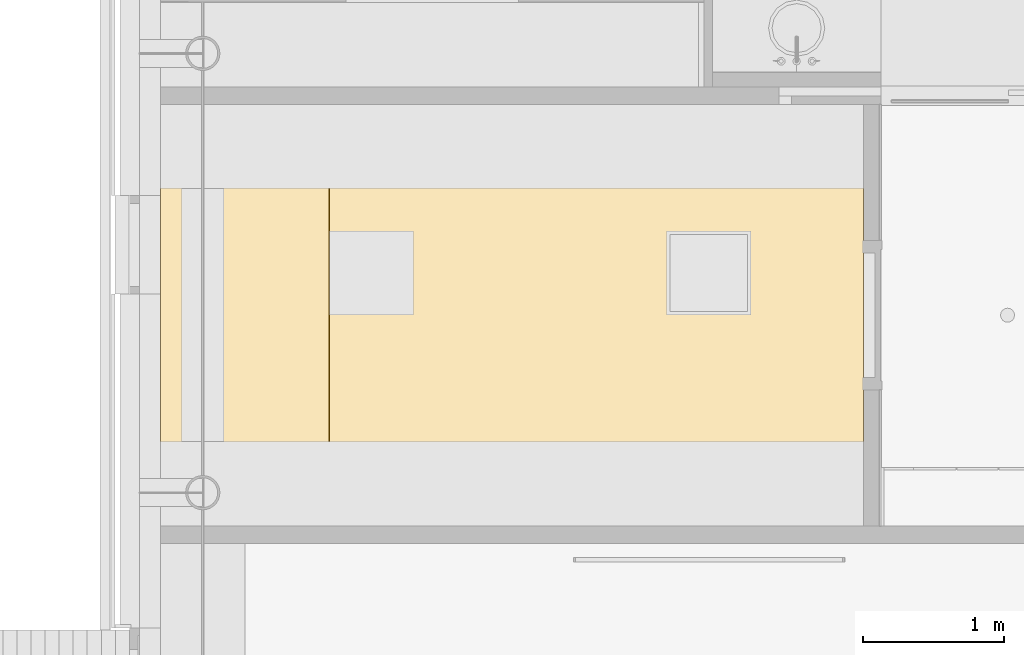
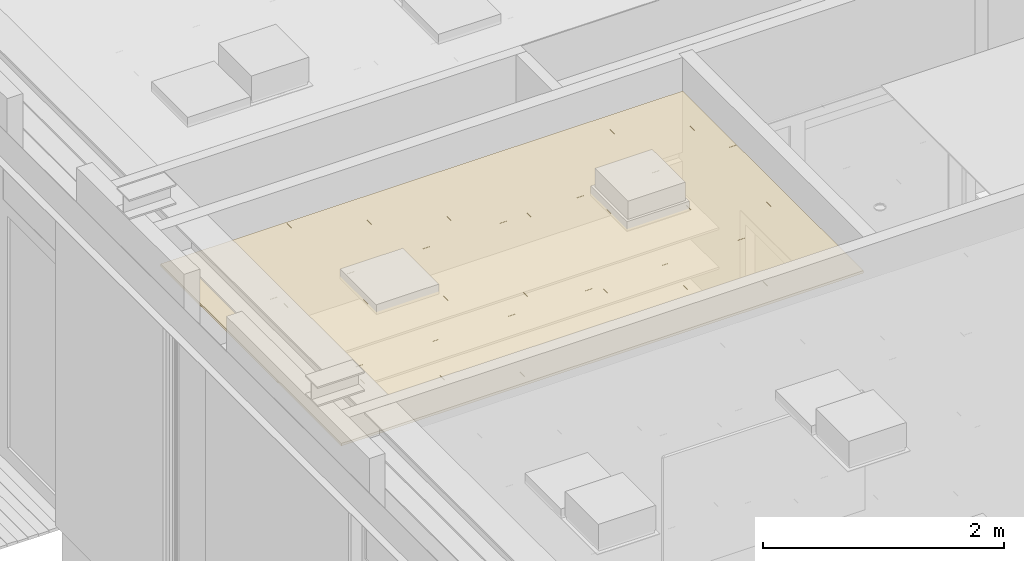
# One storey, part 153 of 347: 1 covering.
"""IFC2X3 building model written with IfcOpenShell, lengths in millimetres."""

from ifc_helpers import new_model, entity, si_unit, converted_unit, derived_unit, money_unit, direction, frame, origin_with_axes, place, context, subcontext, project, spatial, faceted_brep, source, transform, mapped, type_object, type_shapes, element, save


model = new_model("IFC2X3")

# Units and contexts
model_context = context("Model", 3, precision=0.01, world=origin_with_axes(), true_north=direction((0.0, 1.0)))
plan_context = context("Plan", 3, precision=0.01, world=origin_with_axes(), true_north=direction((0.0, 1.0)))
body_context = subcontext(model_context, "Body", "Model", "MODEL_VIEW")
ifc_project = project(units=[si_unit("LENGTHUNIT", "METRE", prefix="MILLI"), si_unit("AREAUNIT", "SQUARE_METRE"), si_unit("VOLUMEUNIT", "CUBIC_METRE"), converted_unit("PLANEANGLEUNIT", "DEGREE", entity("IfcPlaneAngleMeasure", 0.0174532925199), si_unit("PLANEANGLEUNIT", "RADIAN"), dimensions=[0, 0, 0, 0, 0, 0, 0]), money_unit("EUR"), converted_unit("TIMEUNIT", "Year", entity("IfcTimeMeasure", 31556926.0), si_unit("TIMEUNIT", "SECOND"), dimensions=[0, 0, 1, 0, 0, 0, 0]), si_unit("MASSUNIT", "GRAM", prefix="KILO"), si_unit("THERMODYNAMICTEMPERATUREUNIT", "DEGREE_CELSIUS"), si_unit("LUMINOUSINTENSITYUNIT", "LUMEN"), si_unit("ENERGYUNIT", "JOULE", prefix="MEGA"), derived_unit("THERMALCONDUCTANCEUNIT", [(si_unit("POWERUNIT", "WATT"), 1), (si_unit("LENGTHUNIT", "METRE"), -1), (si_unit("THERMODYNAMICTEMPERATUREUNIT", "KELVIN"), -1)]), derived_unit("SPECIFICHEATCAPACITYUNIT", [(si_unit("ENERGYUNIT", "JOULE"), 1), (si_unit("MASSUNIT", "GRAM", prefix="KILO"), -1), (si_unit("THERMODYNAMICTEMPERATUREUNIT", "KELVIN"), -1)]), derived_unit("MASSDENSITYUNIT", [(si_unit("MASSUNIT", "GRAM", prefix="KILO"), 1), (si_unit("VOLUMEUNIT", "CUBIC_METRE"), -1)])], contexts=[model_context, plan_context])

# Site, building, storey
site_placement = place(None, origin_with_axes())
site = spatial("IfcSite", under=ifc_project, at=site_placement, Name="Site", CompositionType="ELEMENT")
building_placement = place(site_placement, origin_with_axes())
building = spatial("IfcBuilding", under=site, at=building_placement, Name="Naam gebouw", CompositionType="ELEMENT")
storey_placement = place(building_placement, origin_with_axes())
storey = spatial("IfcBuildingStorey", under=building, at=storey_placement, Name="begane grond", CompositionType="ELEMENT", Elevation=0.0)

# Covering
covering_type = type_object("IfcCoveringType", Name="Ceiling Editor INT_v2.01", PredefinedType="CEILING")
shared_shape = source(origin_with_axes(), body_context, "Body", "Brep", [
    faceted_brep([(0.100000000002, 0.0, 20.0), (599.9, 0.0, 20.0), (599.9, 899.9, 20.0), (0.100000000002, 899.9, 20.0), (0.100000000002, 0.0, 0.0), (599.9, 0.0, 0.0), (599.9, 899.9, 0.0), (0.100000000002, 899.9, 0.0)], [[[0, 1, 2, 3]], [[1, 0, 4, 5]], [[1, 5, 6, 2]], [[2, 6, 7, 3]], [[4, 0, 3, 7]], [[5, 4, 7, 6]]]),
    faceted_brep([(599.9, 900.1, 20.0), (599.9, 900.1, 0.0), (599.9, 2099.9, 0.0), (599.9, 2099.9, 20.0), (0.100000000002, 900.1, 20.0), (0.100000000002, 900.1, 0.0), (0.100000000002, 2099.9, 0.0), (0.100000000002, 2099.9, 20.0)], [[[0, 1, 2, 3]], [[4, 5, 1, 0]], [[2, 1, 5, 6]], [[3, 2, 6, 7]], [[4, 0, 3, 7]], [[7, 6, 5, 4]]]),
    faceted_brep([(599.9, 3000.0, 0.0), (599.9, 3000.0, 20.0), (599.9, 2100.1, 20.0), (599.9, 2100.1, 0.0), (0.100000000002, 3000.0, 0.0), (0.100000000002, 3000.0, 20.0), (0.100000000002, 2100.1, 20.0), (0.100000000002, 2100.1, 0.0)], [[[0, 1, 2, 3]], [[1, 0, 4, 5]], [[1, 5, 6, 2]], [[6, 7, 3, 2]], [[4, 0, 3, 7]], [[5, 4, 7, 6]]]),
    faceted_brep([(600.1, 0.0, 20.0), (1199.9, 0.0, 20.0), (1199.9, 899.9, 20.0), (600.1, 899.9, 20.0), (600.1, 0.0, 0.0), (1199.9, 0.0, 0.0), (1199.9, 899.9, 0.0), (600.1, 899.9, 0.0)], [[[0, 1, 2, 3]], [[1, 0, 4, 5]], [[1, 5, 6, 2]], [[2, 6, 7, 3]], [[4, 0, 3, 7]], [[5, 4, 7, 6]]]),
    faceted_brep([(1199.9, 900.1, 20.0), (1199.9, 900.1, 0.0), (1199.9, 2099.9, 0.0), (1199.9, 2099.9, 20.0), (600.1, 900.1, 20.0), (600.1, 900.1, 0.0), (600.1, 2099.9, 0.0), (600.1, 2099.9, 20.0)], [[[0, 1, 2, 3]], [[4, 5, 1, 0]], [[2, 1, 5, 6]], [[3, 2, 6, 7]], [[4, 0, 3, 7]], [[7, 6, 5, 4]]]),
    faceted_brep([(1199.9, 3000.0, 0.0), (1199.9, 3000.0, 20.0), (1199.9, 2100.1, 20.0), (1199.9, 2100.1, 0.0), (600.1, 3000.0, 0.0), (600.1, 3000.0, 20.0), (600.1, 2100.1, 20.0), (600.1, 2100.1, 0.0)], [[[0, 1, 2, 3]], [[1, 0, 4, 5]], [[1, 5, 6, 2]], [[6, 7, 3, 2]], [[4, 0, 3, 7]], [[5, 4, 7, 6]]]),
    faceted_brep([(1249.99999795, 0.0, 20.0), (1799.9, 0.0, 20.0), (1799.9, 899.9, 20.0), (1200.1, 899.9, 20.0), (1200.1, 0.0, 20.0), (1249.99999795, 0.0, 0.0), (1799.9, 0.0, 0.0), (1799.9, 899.9, 0.0), (1200.1, 899.9, 0.0), (1200.1, 0.0, 0.0)], [[[0, 1, 2, 3, 4]], [[1, 0, 5, 6]], [[1, 6, 7, 2]], [[2, 7, 8, 3]], [[9, 4, 3, 8]], [[0, 4, 9, 5]], [[5, 9, 8, 7, 6]]]),
    faceted_brep([(1799.9, 900.1, 20.0), (1799.9, 900.1, 0.0), (1799.9, 2099.9, 0.0), (1799.9, 2099.9, 20.0), (1200.1, 900.1, 20.0), (1200.1, 900.1, 0.0), (1200.1, 2099.9, 0.0), (1200.1, 2099.9, 20.0)], [[[0, 1, 2, 3]], [[4, 5, 1, 0]], [[2, 1, 5, 6]], [[3, 2, 6, 7]], [[4, 0, 3, 7]], [[7, 6, 5, 4]]]),
    faceted_brep([(1799.9, 3000.0, 0.0), (1799.9, 3000.0, 20.0), (1799.9, 2100.1, 20.0), (1799.9, 2100.1, 0.0), (1249.99999795, 3000.0, 0.0), (1249.99999795, 3000.0, 20.0), (1200.1, 3000.0, 20.0), (1200.1, 2100.1, 20.0), (1200.1, 2100.1, 0.0), (1200.1, 3000.0, 0.0)], [[[0, 1, 2, 3]], [[1, 0, 4, 5]], [[5, 6, 7, 2, 1]], [[7, 8, 3, 2]], [[4, 0, 3, 8, 9]], [[6, 5, 4, 9]], [[6, 9, 8, 7]]]),
    faceted_brep([(1800.1, 0.0, 20.0), (2399.9, 0.0, 20.0), (2399.9, 899.9, 20.0), (1800.1, 899.9, 20.0), (1800.1, 0.0, 0.0), (2399.9, 0.0, 0.0), (2399.9, 899.9, 0.0), (1800.1, 899.9, 0.0)], [[[0, 1, 2, 3]], [[1, 0, 4, 5]], [[1, 5, 6, 2]], [[2, 6, 7, 3]], [[4, 0, 3, 7]], [[5, 4, 7, 6]]]),
    faceted_brep([(2399.9, 900.1, 20.0), (2399.9, 900.1, 0.0), (2399.9, 2099.9, 0.0), (2399.9, 2099.9, 20.0), (1800.1, 900.1, 20.0), (1800.1, 900.1, 0.0), (1800.1, 2099.9, 0.0), (1800.1, 2099.9, 20.0)], [[[0, 1, 2, 3]], [[4, 5, 1, 0]], [[2, 1, 5, 6]], [[3, 2, 6, 7]], [[4, 0, 3, 7]], [[7, 6, 5, 4]]]),
    faceted_brep([(2399.9, 3000.0, 0.0), (2399.9, 3000.0, 20.0), (2399.9, 2100.1, 20.0), (2399.9, 2100.1, 0.0), (1800.1, 3000.0, 0.0), (1800.1, 3000.0, 20.0), (1800.1, 2100.1, 20.0), (1800.1, 2100.1, 0.0)], [[[0, 1, 2, 3]], [[1, 0, 4, 5]], [[1, 5, 6, 2]], [[6, 7, 3, 2]], [[4, 0, 3, 7]], [[5, 4, 7, 6]]]),
    faceted_brep([(2499.9999959, 0.0, 20.0), (2999.9, 0.0, 20.0), (2999.9, 899.9, 20.0), (2400.1, 899.9, 20.0), (2400.1, 0.0, 20.0), (2499.9999959, 0.0, 0.0), (2999.9, 0.0, 0.0), (2999.9, 899.9, 0.0), (2400.1, 899.9, 0.0), (2400.1, 0.0, 0.0)], [[[0, 1, 2, 3, 4]], [[1, 0, 5, 6]], [[1, 6, 7, 2]], [[2, 7, 8, 3]], [[9, 4, 3, 8]], [[0, 4, 9, 5]], [[5, 9, 8, 7, 6]]]),
    faceted_brep([(2999.9, 900.1, 20.0), (2999.9, 900.1, 0.0), (2999.9, 2099.9, 0.0), (2999.9, 2099.9, 20.0), (2400.1, 900.1, 20.0), (2400.1, 900.1, 0.0), (2400.1, 2099.9, 0.0), (2400.1, 2099.9, 20.0)], [[[0, 1, 2, 3]], [[4, 5, 1, 0]], [[2, 1, 5, 6]], [[3, 2, 6, 7]], [[4, 0, 3, 7]], [[7, 6, 5, 4]]]),
    faceted_brep([(2999.9, 3000.0, 0.0), (2999.9, 3000.0, 20.0), (2999.9, 2100.1, 20.0), (2999.9, 2100.1, 0.0), (2499.9999959, 3000.0, 0.0), (2499.9999959, 3000.0, 20.0), (2400.1, 3000.0, 20.0), (2400.1, 2100.1, 20.0), (2400.1, 2100.1, 0.0), (2400.1, 3000.0, 0.0)], [[[0, 1, 2, 3]], [[1, 0, 4, 5]], [[5, 6, 7, 2, 1]], [[7, 8, 3, 2]], [[4, 0, 3, 8, 9]], [[6, 5, 4, 9]], [[6, 9, 8, 7]]]),
    faceted_brep([(3000.1, 0.0, 20.0), (3599.9, 0.0, 20.0), (3599.9, 899.9, 20.0), (3000.1, 899.9, 20.0), (3000.1, 0.0, 0.0), (3599.9, 0.0, 0.0), (3599.9, 899.9, 0.0), (3000.1, 899.9, 0.0)], [[[0, 1, 2, 3]], [[1, 0, 4, 5]], [[1, 5, 6, 2]], [[2, 6, 7, 3]], [[4, 0, 3, 7]], [[5, 4, 7, 6]]]),
    faceted_brep([(3599.9, 900.1, 20.0), (3599.9, 900.1, 0.0), (3599.9, 2099.9, 0.0), (3599.9, 2099.9, 20.0), (3000.1, 900.1, 20.0), (3000.1, 900.1, 0.0), (3000.1, 2099.9, 0.0), (3000.1, 2099.9, 20.0)], [[[0, 1, 2, 3]], [[4, 5, 1, 0]], [[2, 1, 5, 6]], [[3, 2, 6, 7]], [[4, 0, 3, 7]], [[7, 6, 5, 4]]]),
    faceted_brep([(3599.9, 3000.0, 0.0), (3599.9, 3000.0, 20.0), (3599.9, 2100.1, 20.0), (3599.9, 2100.1, 0.0), (3000.1, 3000.0, 0.0), (3000.1, 3000.0, 20.0), (3000.1, 2100.1, 20.0), (3000.1, 2100.1, 0.0)], [[[0, 1, 2, 3]], [[1, 0, 4, 5]], [[1, 5, 6, 2]], [[6, 7, 3, 2]], [[4, 0, 3, 7]], [[5, 4, 7, 6]]]),
    faceted_brep([(3749.99999385, 0.0, 20.0), (4199.9, 0.0, 20.0), (4199.9, 899.9, 20.0), (3600.1, 899.9, 20.0), (3600.1, 0.0, 20.0), (3749.99999385, 0.0, 0.0), (4199.9, 0.0, 0.0), (4199.9, 899.9, 0.0), (3600.1, 899.9, 0.0), (3600.1, 0.0, 0.0)], [[[0, 1, 2, 3, 4]], [[1, 0, 5, 6]], [[1, 6, 7, 2]], [[2, 7, 8, 3]], [[9, 4, 3, 8]], [[0, 4, 9, 5]], [[5, 9, 8, 7, 6]]]),
    faceted_brep([(4199.9, 900.1, 20.0), (4199.9, 900.1, 0.0), (4199.9, 2099.9, 0.0), (4199.9, 2099.9, 20.0), (3600.1, 900.1, 20.0), (3600.1, 900.1, 0.0), (3600.1, 2099.9, 0.0), (3600.1, 2099.9, 20.0)], [[[0, 1, 2, 3]], [[4, 5, 1, 0]], [[2, 1, 5, 6]], [[3, 2, 6, 7]], [[4, 0, 3, 7]], [[7, 6, 5, 4]]]),
    faceted_brep([(4199.9, 3000.0, 0.0), (4199.9, 3000.0, 20.0), (4199.9, 2100.1, 20.0), (4199.9, 2100.1, 0.0), (3749.99999385, 3000.0, 0.0), (3749.99999385, 3000.0, 20.0), (3600.1, 3000.0, 20.0), (3600.1, 2100.1, 20.0), (3600.1, 2100.1, 0.0), (3600.1, 3000.0, 0.0)], [[[0, 1, 2, 3]], [[1, 0, 4, 5]], [[5, 6, 7, 2, 1]], [[7, 8, 3, 2]], [[4, 0, 3, 8, 9]], [[6, 5, 4, 9]], [[6, 9, 8, 7]]]),
    faceted_brep([(4200.1, 0.0, 20.0), (4799.9, 0.0, 20.0), (4799.9, 899.9, 20.0), (4200.1, 899.9, 20.0), (4200.1, 0.0, 0.0), (4799.9, 0.0, 0.0), (4799.9, 899.9, 0.0), (4200.1, 899.9, 0.0)], [[[0, 1, 2, 3]], [[1, 0, 4, 5]], [[1, 5, 6, 2]], [[2, 6, 7, 3]], [[4, 0, 3, 7]], [[5, 4, 7, 6]]]),
    faceted_brep([(4799.9, 900.1, 20.0), (4799.9, 900.1, 0.0), (4799.9, 2099.9, 0.0), (4799.9, 2099.9, 20.0), (4200.1, 900.1, 20.0), (4200.1, 900.1, 0.0), (4200.1, 2099.9, 0.0), (4200.1, 2099.9, 20.0)], [[[0, 1, 2, 3]], [[4, 5, 1, 0]], [[2, 1, 5, 6]], [[3, 2, 6, 7]], [[4, 0, 3, 7]], [[7, 6, 5, 4]]]),
    faceted_brep([(4799.9, 3000.0, 0.0), (4799.9, 3000.0, 20.0), (4799.9, 2100.1, 20.0), (4799.9, 2100.1, 0.0), (4200.1, 3000.0, 0.0), (4200.1, 3000.0, 20.0), (4200.1, 2100.1, 20.0), (4200.1, 2100.1, 0.0)], [[[0, 1, 2, 3]], [[1, 0, 4, 5]], [[1, 5, 6, 2]], [[6, 7, 3, 2]], [[4, 0, 3, 7]], [[5, 4, 7, 6]]]),
    faceted_brep([(4999.9999918, 750.0, 20.0), (4999.9999918, 899.9, 20.0), (4800.1, 899.9, 20.0), (4800.1, 0.0, 20.0), (4999.9999918, 0.0, 20.0), (4999.9999918, 750.0, 0.0), (4999.9999918, 899.9, 0.0), (4800.1, 899.9, 0.0), (4800.1, 0.0, 0.0), (4999.9999918, 0.0, 0.0)], [[[0, 1, 2, 3, 4]], [[1, 0, 5, 6]], [[1, 6, 7, 2]], [[8, 3, 2, 7]], [[4, 3, 8, 9]], [[0, 4, 9, 5]], [[9, 8, 7, 6, 5]]]),
    faceted_brep([(4999.9999918, 1500.0, 20.0), (4999.9999918, 2099.9, 20.0), (4800.1, 2099.9, 20.0), (4800.1, 900.1, 20.0), (4999.9999918, 900.1, 20.0), (4999.9999918, 1500.0, 0.0), (4999.9999918, 2099.9, 0.0), (4800.1, 2099.9, 0.0), (4800.1, 900.1, 0.0), (4999.9999918, 900.1, 0.0)], [[[0, 1, 2, 3, 4]], [[1, 0, 5, 6]], [[1, 6, 7, 2]], [[2, 7, 8, 3]], [[9, 4, 3, 8]], [[0, 4, 9, 5]], [[5, 9, 8, 7, 6]]]),
    faceted_brep([(4999.9999918, 2250.0, 20.0), (4999.9999918, 3000.0, 20.0), (4800.1, 3000.0, 20.0), (4800.1, 2100.1, 20.0), (4999.9999918, 2100.1, 20.0), (4999.9999918, 2250.0, 0.0), (4999.9999918, 3000.0, 0.0), (4800.1, 3000.0, 0.0), (4800.1, 2100.1, 0.0), (4999.9999918, 2100.1, 0.0)], [[[0, 1, 2, 3, 4]], [[1, 0, 5, 6]], [[2, 1, 6, 7]], [[2, 7, 8, 3]], [[9, 4, 3, 8]], [[0, 4, 9, 5]], [[5, 9, 8, 7, 6]]]),
    faceted_brep([(4999.9999918, 0.0, 0.0), (4999.9999918, 0.0, -5.0), (4999.9999918, 887.5, -5.0), (4999.9999918, 912.5, -5.0), (4999.9999918, 2087.5, -5.0), (4999.9999918, 2112.5, -5.0), (4999.9999918, 3000.0, -5.0), (4999.9999918, 3000.0, 0.0), (4999.9999918, 2112.5, 0.0), (4999.9999918, 2087.5, 0.0), (4999.9999918, 912.5, 0.0), (4999.9999918, 887.5, 0.0), (2412.5, 0.0, -5.0), (2987.5, 0.0, -5.0), (3012.5, 0.0, -5.0), (3587.5, 0.0, -5.0), (3612.5, 0.0, -5.0), (4187.5, 0.0, -5.0), (4212.5, 0.0, -5.0), (4787.5, 0.0, -5.0), (4812.5, 0.0, -5.0), (4812.5, 0.0, 0.0), (4787.5, 0.0, 0.0), (4212.5, 0.0, 0.0), (4187.5, 0.0, 0.0), (3612.5, 0.0, 0.0), (3587.5, 0.0, 0.0), (3012.5, 0.0, 0.0), (2987.5, 0.0, 0.0), (2412.5, 0.0, 0.0), (2387.5, 0.0, 0.0), (1812.5, 0.0, 0.0), (1787.5, 0.0, 0.0), (1212.5, 0.0, 0.0), (1187.5, 0.0, 0.0), (612.5, 0.0, 0.0), (587.5, 0.0, 0.0), (12.5, 0.0, 0.0), (0.0, 0.0, 0.0), (0.0, 0.0, -5.0), (12.5, 0.0, -5.0), (587.5, 0.0, -5.0), (612.5, 0.0, -5.0), (1187.5, 0.0, -5.0), (1212.5, 0.0, -5.0), (1787.5, 0.0, -5.0), (1812.5, 0.0, -5.0), (2387.5, 0.0, -5.0), (0.0, 750.0, -5.0), (0.0, 1500.0, -5.0), (0.0, 2250.0, -5.0), (0.0, 3000.0, -5.0), (12.5, 3000.0, -5.0), (587.5, 3000.0, -5.0), (612.5, 3000.0, -5.0), (1187.5, 3000.0, -5.0), (1212.5, 3000.0, -5.0), (1787.5, 3000.0, -5.0), (1812.5, 3000.0, -5.0), (2387.5, 3000.0, -5.0), (2412.5, 3000.0, -5.0), (2987.5, 3000.0, -5.0), (3012.5, 3000.0, -5.0), (3587.5, 3000.0, -5.0), (3612.5, 3000.0, -5.0), (4187.5, 3000.0, -5.0), (4212.5, 3000.0, -5.0), (4787.5, 3000.0, -5.0), (4812.5, 3000.0, -5.0), (25.0, 912.5, -5.0), (587.5, 912.5, -5.0), (587.5, 2087.5, -5.0), (25.0, 2087.5, -5.0), (1187.5, 912.5, -5.0), (1187.5, 2087.5, -5.0), (612.5, 2087.5, -5.0), (612.5, 912.5, -5.0), (1787.5, 912.5, -5.0), (1787.5, 2087.5, -5.0), (1212.5, 2087.5, -5.0), (1212.5, 912.5, -5.0), (2387.5, 912.5, -5.0), (2387.5, 2087.5, -5.0), (1812.5, 2087.5, -5.0), (1812.5, 912.5, -5.0), (2987.5, 912.5, -5.0), (2987.5, 2087.5, -5.0), (2412.5, 2087.5, -5.0), (2412.5, 912.5, -5.0), (3587.5, 912.5, -5.0), (3587.5, 2087.5, -5.0), (3012.5, 2087.5, -5.0), (3012.5, 912.5, -5.0), (4187.5, 912.5, -5.0), (4187.5, 2087.5, -5.0), (3612.5, 2087.5, -5.0), (3612.5, 912.5, -5.0), (4787.5, 912.5, -5.0), (4787.5, 2087.5, -5.0), (4212.5, 2087.5, -5.0), (4212.5, 912.5, -5.0), (25.0, 25.0, -5.0), (587.5, 25.0, -5.0), (587.5, 887.5, -5.0), (25.0, 887.5, -5.0), (1187.5, 25.0, -5.0), (1187.5, 887.5, -5.0), (612.5, 887.5, -5.0), (612.5, 25.0, -5.0), (587.5, 2975.0, -5.0), (25.0, 2975.0, -5.0), (25.0, 2112.5, -5.0), (587.5, 2112.5, -5.0), (1187.5, 2975.0, -5.0), (612.5, 2975.0, -5.0), (612.5, 2112.5, -5.0), (1187.5, 2112.5, -5.0), (1787.5, 2975.0, -5.0), (1212.5, 2975.0, -5.0), (1212.5, 2112.5, -5.0), (1787.5, 2112.5, -5.0), (2387.5, 2975.0, -5.0), (1812.5, 2975.0, -5.0), (1812.5, 2112.5, -5.0), (2387.5, 2112.5, -5.0), (2987.5, 2975.0, -5.0), (2412.5, 2975.0, -5.0), (2412.5, 2112.5, -5.0), (2987.5, 2112.5, -5.0), (3587.5, 2975.0, -5.0), (3012.5, 2975.0, -5.0), (3012.5, 2112.5, -5.0), (3587.5, 2112.5, -5.0), (4187.5, 2975.0, -5.0), (3612.5, 2975.0, -5.0), (3612.5, 2112.5, -5.0), (4187.5, 2112.5, -5.0), (4787.5, 2975.0, -5.0), (4212.5, 2975.0, -5.0), (4212.5, 2112.5, -5.0), (4787.5, 2112.5, -5.0), (4974.9999918, 2975.0, -5.0), (4812.5, 2975.0, -5.0), (4812.5, 2112.5, -5.0), (4974.9999918, 2112.5, -5.0), (4974.9999918, 2087.5, -5.0), (4812.5, 2087.5, -5.0), (4812.5, 912.5, -5.0), (4974.9999918, 912.5, -5.0), (4787.5, 25.0, -5.0), (4787.5, 887.5, -5.0), (4212.5, 887.5, -5.0), (4212.5, 25.0, -5.0), (4974.9999918, 25.0, -5.0), (4974.9999918, 887.5, -5.0), (4812.5, 887.5, -5.0), (4812.5, 25.0, -5.0), (3587.5, 25.0, -5.0), (3587.5, 887.5, -5.0), (3012.5, 887.5, -5.0), (3012.5, 25.0, -5.0), (4187.5, 25.0, -5.0), (4187.5, 887.5, -5.0), (3612.5, 887.5, -5.0), (3612.5, 25.0, -5.0), (1787.5, 25.0, -5.0), (1787.5, 887.5, -5.0), (1212.5, 887.5, -5.0), (1212.5, 25.0, -5.0), (2387.5, 25.0, -5.0), (2387.5, 887.5, -5.0), (1812.5, 887.5, -5.0), (1812.5, 25.0, -5.0), (2987.5, 25.0, -5.0), (2987.5, 887.5, -5.0), (2412.5, 887.5, -5.0), (2412.5, 25.0, -5.0), (0.0, 3000.0, 0.0), (12.5, 3000.0, 0.0), (587.5, 3000.0, 0.0), (612.5, 3000.0, 0.0), (1187.5, 3000.0, 0.0), (1212.5, 3000.0, 0.0), (1787.5, 3000.0, 0.0), (1812.5, 3000.0, 0.0), (2387.5, 3000.0, 0.0), (2412.5, 3000.0, 0.0), (2987.5, 3000.0, 0.0), (3012.5, 3000.0, 0.0), (3587.5, 3000.0, 0.0), (3612.5, 3000.0, 0.0), (4187.5, 3000.0, 0.0), (4212.5, 3000.0, 0.0), (4787.5, 3000.0, 0.0), (4812.5, 3000.0, 0.0), (0.0, 2250.0, 0.0), (0.0, 1500.0, 0.0), (0.0, 750.0, 0.0), (25.0, 2087.5, 0.0), (587.5, 2087.5, 0.0), (587.5, 912.5, 0.0), (25.0, 912.5, 0.0), (612.5, 2087.5, 0.0), (1187.5, 2087.5, 0.0), (1187.5, 912.5, 0.0), (612.5, 912.5, 0.0), (1212.5, 2087.5, 0.0), (1787.5, 2087.5, 0.0), (1787.5, 912.5, 0.0), (1212.5, 912.5, 0.0), (1812.5, 2087.5, 0.0), (2387.5, 2087.5, 0.0), (2387.5, 912.5, 0.0), (1812.5, 912.5, 0.0), (2412.5, 2087.5, 0.0), (2987.5, 2087.5, 0.0), (2987.5, 912.5, 0.0), (2412.5, 912.5, 0.0), (3012.5, 2087.5, 0.0), (3587.5, 2087.5, 0.0), (3587.5, 912.5, 0.0), (3012.5, 912.5, 0.0), (3612.5, 2087.5, 0.0), (4187.5, 2087.5, 0.0), (4187.5, 912.5, 0.0), (3612.5, 912.5, 0.0), (4212.5, 2087.5, 0.0), (4787.5, 2087.5, 0.0), (4787.5, 912.5, 0.0), (4212.5, 912.5, 0.0), (25.0, 887.5, 0.0), (587.5, 887.5, 0.0), (587.5, 25.0, 0.0), (25.0, 25.0, 0.0), (1187.5, 25.0, 0.0), (612.5, 25.0, 0.0), (612.5, 887.5, 0.0), (1187.5, 887.5, 0.0), (587.5, 2975.0, 0.0), (587.5, 2112.5, 0.0), (25.0, 2112.5, 0.0), (25.0, 2975.0, 0.0), (1187.5, 2975.0, 0.0), (1187.5, 2112.5, 0.0), (612.5, 2112.5, 0.0), (612.5, 2975.0, 0.0), (1787.5, 2975.0, 0.0), (1787.5, 2112.5, 0.0), (1212.5, 2112.5, 0.0), (1212.5, 2975.0, 0.0), (2387.5, 2975.0, 0.0), (2387.5, 2112.5, 0.0), (1812.5, 2112.5, 0.0), (1812.5, 2975.0, 0.0), (2987.5, 2975.0, 0.0), (2987.5, 2112.5, 0.0), (2412.5, 2112.5, 0.0), (2412.5, 2975.0, 0.0), (3587.5, 2975.0, 0.0), (3587.5, 2112.5, 0.0), (3012.5, 2112.5, 0.0), (3012.5, 2975.0, 0.0), (4187.5, 2975.0, 0.0), (4187.5, 2112.5, 0.0), (3612.5, 2112.5, 0.0), (3612.5, 2975.0, 0.0), (4787.5, 2975.0, 0.0), (4787.5, 2112.5, 0.0), (4212.5, 2112.5, 0.0), (4212.5, 2975.0, 0.0), (4974.9999918, 2112.5, 0.0), (4812.5, 2112.5, 0.0), (4812.5, 2975.0, 0.0), (4974.9999918, 2975.0, 0.0), (4974.9999918, 912.5, 0.0), (4812.5, 912.5, 0.0), (4812.5, 2087.5, 0.0), (4974.9999918, 2087.5, 0.0), (4787.5, 25.0, 0.0), (4212.5, 25.0, 0.0), (4212.5, 887.5, 0.0), (4787.5, 887.5, 0.0), (4974.9999918, 25.0, 0.0), (4812.5, 25.0, 0.0), (4812.5, 887.5, 0.0), (4974.9999918, 887.5, 0.0), (3587.5, 25.0, 0.0), (3012.5, 25.0, 0.0), (3012.5, 887.5, 0.0), (3587.5, 887.5, 0.0), (3612.5, 25.0, 0.0), (3612.5, 887.5, 0.0), (4187.5, 887.5, 0.0), (4187.5, 25.0, 0.0), (1787.5, 25.0, 0.0), (1212.5, 25.0, 0.0), (1212.5, 887.5, 0.0), (1787.5, 887.5, 0.0), (2387.5, 25.0, 0.0), (1812.5, 25.0, 0.0), (1812.5, 887.5, 0.0), (2387.5, 887.5, 0.0), (2412.5, 25.0, 0.0), (2412.5, 887.5, 0.0), (2987.5, 887.5, 0.0), (2987.5, 25.0, 0.0)], [[[0, 1, 2, 3, 4, 5, 6, 7, 8, 9, 10, 11]], [[12, 13, 14, 15, 16, 17, 18, 19, 20, 1, 0, 21, 22, 23, 24, 25, 26, 27, 28, 29, 30, 31, 32, 33, 34, 35, 36, 37, 38, 39, 40, 41, 42, 43, 44, 45, 46, 47]], [[12, 47, 46, 45, 44, 43, 42, 41, 40, 39, 48, 49, 50, 51, 52, 53, 54, 55, 56, 57, 58, 59, 60, 61, 62, 63, 64, 65, 66, 67, 68, 6, 5, 4, 3, 2, 1, 20, 19, 18, 17, 16, 15, 14, 13], [69, 70, 71, 72], [73, 74, 75, 76], [77, 78, 79, 80], [81, 82, 83, 84], [85, 86, 87, 88], [89, 90, 91, 92], [93, 94, 95, 96], [97, 98, 99, 100], [101, 102, 103, 104], [105, 106, 107, 108], [109, 110, 111, 112], [113, 114, 115, 116], [117, 118, 119, 120], [121, 122, 123, 124], [125, 126, 127, 128], [129, 130, 131, 132], [133, 134, 135, 136], [137, 138, 139, 140], [141, 142, 143, 144], [145, 146, 147, 148], [149, 150, 151, 152], [153, 154, 155, 156], [157, 158, 159, 160], [161, 162, 163, 164], [165, 166, 167, 168], [169, 170, 171, 172], [173, 174, 175, 176]], [[7, 6, 68, 67, 66, 65, 64, 63, 62, 61, 60, 59, 58, 57, 56, 55, 54, 53, 52, 51, 177, 178, 179, 180, 181, 182, 183, 184, 185, 186, 187, 188, 189, 190, 191, 192, 193, 194]], [[28, 27, 26, 25, 24, 23, 22, 21, 0, 11, 10, 9, 8, 7, 194, 193, 192, 191, 190, 189, 188, 187, 186, 185, 184, 183, 182, 181, 180, 179, 178, 177, 195, 196, 197, 38, 37, 36, 35, 34, 33, 32, 31, 30, 29], [198, 199, 200, 201], [202, 203, 204, 205], [206, 207, 208, 209], [210, 211, 212, 213], [214, 215, 216, 217], [218, 219, 220, 221], [222, 223, 224, 225], [226, 227, 228, 229], [230, 231, 232, 233], [234, 235, 236, 237], [238, 239, 240, 241], [242, 243, 244, 245], [246, 247, 248, 249], [250, 251, 252, 253], [254, 255, 256, 257], [258, 259, 260, 261], [262, 263, 264, 265], [266, 267, 268, 269], [270, 271, 272, 273], [274, 275, 276, 277], [278, 279, 280, 281], [282, 283, 284, 285], [286, 287, 288, 289], [290, 291, 292, 293], [294, 295, 296, 297], [298, 299, 300, 301], [302, 303, 304, 305]], [[48, 39, 38, 197]], [[49, 48, 197, 196]], [[50, 49, 196, 195]], [[51, 50, 195, 177]], [[69, 201, 200, 70]], [[200, 199, 71, 70]], [[198, 72, 71, 199]], [[72, 198, 201, 69]], [[204, 203, 74, 73]], [[75, 74, 203, 202]], [[76, 75, 202, 205]], [[205, 204, 73, 76]], [[208, 207, 78, 77]], [[79, 78, 207, 206]], [[80, 79, 206, 209]], [[209, 208, 77, 80]], [[212, 211, 82, 81]], [[83, 82, 211, 210]], [[84, 83, 210, 213]], [[213, 212, 81, 84]], [[216, 215, 86, 85]], [[87, 86, 215, 214]], [[88, 87, 214, 217]], [[217, 216, 85, 88]], [[220, 219, 90, 89]], [[91, 90, 219, 218]], [[92, 91, 218, 221]], [[221, 220, 89, 92]], [[224, 223, 94, 93]], [[95, 94, 223, 222]], [[96, 95, 222, 225]], [[225, 224, 93, 96]], [[228, 227, 98, 97]], [[99, 98, 227, 226]], [[100, 99, 226, 229]], [[97, 100, 229, 228]], [[101, 233, 232, 102]], [[102, 232, 231, 103]], [[230, 104, 103, 231]], [[104, 230, 233, 101]], [[105, 234, 237, 106]], [[107, 106, 237, 236]], [[235, 108, 107, 236]], [[234, 105, 108, 235]], [[109, 238, 241, 110]], [[110, 241, 240, 111]], [[111, 240, 239, 112]], [[238, 109, 112, 239]], [[113, 242, 245, 114]], [[114, 245, 244, 115]], [[244, 243, 116, 115]], [[242, 113, 116, 243]], [[117, 246, 249, 118]], [[118, 249, 248, 119]], [[248, 247, 120, 119]], [[246, 117, 120, 247]], [[121, 250, 253, 122]], [[122, 253, 252, 123]], [[252, 251, 124, 123]], [[250, 121, 124, 251]], [[125, 254, 257, 126]], [[126, 257, 256, 127]], [[256, 255, 128, 127]], [[254, 125, 128, 255]], [[129, 258, 261, 130]], [[130, 261, 260, 131]], [[260, 259, 132, 131]], [[258, 129, 132, 259]], [[133, 262, 265, 134]], [[134, 265, 264, 135]], [[264, 263, 136, 135]], [[262, 133, 136, 263]], [[137, 266, 269, 138]], [[138, 269, 268, 139]], [[268, 267, 140, 139]], [[266, 137, 140, 267]], [[141, 273, 272, 142]], [[142, 272, 271, 143]], [[270, 144, 143, 271]], [[270, 273, 141, 144]], [[145, 277, 276, 146]], [[147, 146, 276, 275]], [[274, 148, 147, 275]], [[274, 277, 145, 148]], [[149, 278, 281, 150]], [[281, 280, 151, 150]], [[279, 152, 151, 280]], [[278, 149, 152, 279]], [[153, 282, 285, 154]], [[154, 285, 284, 155]], [[283, 156, 155, 284]], [[282, 153, 156, 283]], [[157, 286, 289, 158]], [[159, 158, 289, 288]], [[287, 160, 159, 288]], [[286, 157, 160, 287]], [[161, 293, 292, 162]], [[163, 162, 292, 291]], [[290, 164, 163, 291]], [[290, 293, 161, 164]], [[165, 294, 297, 166]], [[167, 166, 297, 296]], [[295, 168, 167, 296]], [[294, 165, 168, 295]], [[169, 298, 301, 170]], [[171, 170, 301, 300]], [[299, 172, 171, 300]], [[298, 169, 172, 299]], [[173, 305, 304, 174]], [[175, 174, 304, 303]], [[302, 176, 175, 303]], [[302, 305, 173, 176]]]),
])
type_shapes(covering_type, [shared_shape])
covering_placement = place(storey_placement, frame((24275.0000082, 35962.5, 3200.0), z_axis=(0.0, 0.0, 1.0), x_axis=(1.0, 0.0, 0.0)))
element("IfcCovering", 1, at=covering_placement, inside=storey, type_object=covering_type, Name="45 Plafondafwerkingen_77 garderobe", PredefinedType="CEILING", context=body_context, shape_type="MappedRepresentation", body=[
    mapped(shared_shape, transform((0.0, 0.0, 0.0))),
])

save(model, "model.ifc")
